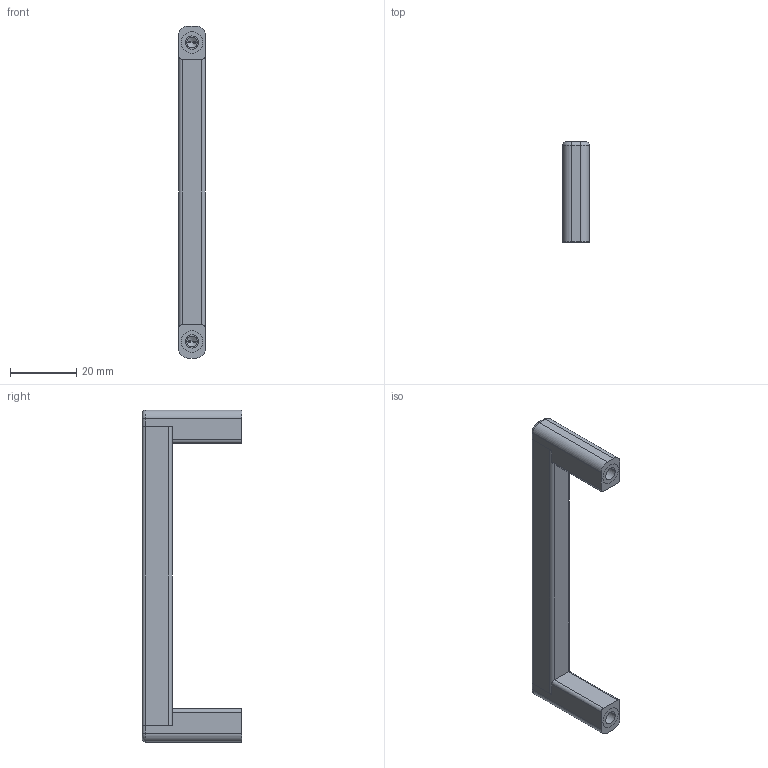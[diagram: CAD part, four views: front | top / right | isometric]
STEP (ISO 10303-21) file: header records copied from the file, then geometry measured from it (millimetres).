
FILE_DESCRIPTION (( 'STEP AP203' ), '1' );
FILE_NAME ('79350.W0090-4.step', '2018-04-28T14:55:36', ( '' ), ( '' ), 'SwSTEP 2.0', 'SolidWorks 2017', '' );
FILE_SCHEMA (( 'CONFIG_CONTROL_DESIGN' ));
Length unit declared in the file: millimetre
Products named in the file (3): Part3_79350.W0090-4; 79350.W0090-4; Part1
Assembly tree (3 placements, depth 2):
  79350.W0090-4
    Part3_79350.W0090-4
    Part1  x2
Bounding box: 8 x 30 x 100 mm (x, y, z)
Volume: 9461.9 mm3; surface area: 7863.9 mm2
Topology: 5 solids, 5 shells, 110 faces, 266 edges, 162 vertices
Faces by surface type: cylinder 46, plane 40, cone 12, torus 12
Entity records: 2190 total; most frequent: DIRECTION 355, CARTESIAN_POINT 318, ORIENTED_EDGE 302, EDGE_CURVE 151, AXIS2_PLACEMENT_3D 134, VERTEX_POINT 97, VECTOR 87, LINE 87
